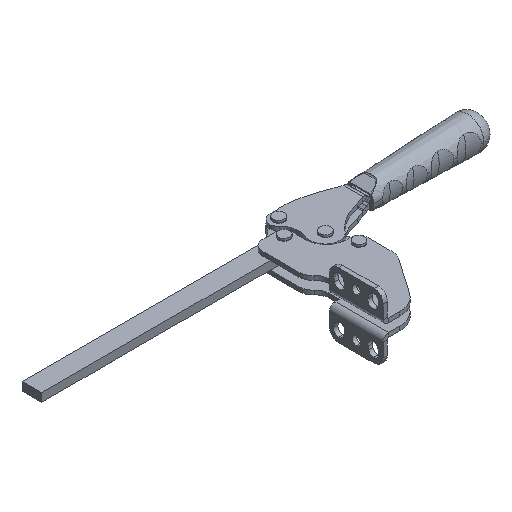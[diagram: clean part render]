
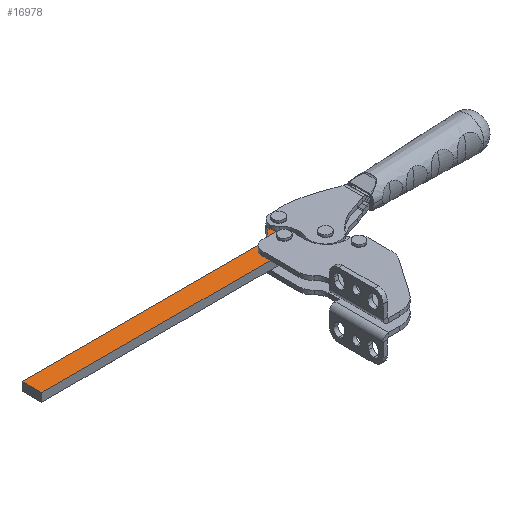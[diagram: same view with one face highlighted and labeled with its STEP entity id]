
A CAD part, isometric view. The second image highlights one B-rep face of the part: STEP entity #16978.
In plain terms, the highlighted planar face has unit normal (0, 0, 1).
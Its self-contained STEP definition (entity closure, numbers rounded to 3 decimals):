
#16 = ORIENTED_EDGE ( 'NONE', *, *, #10080, .F. ) ;
#217 = VERTEX_POINT ( 'NONE', #4514 ) ;
#438 = CARTESIAN_POINT ( 'NONE',  ( -180.517, 7.5, 3. ) ) ;
#446 = ORIENTED_EDGE ( 'NONE', *, *, #5189, .F. ) ;
#498 = VERTEX_POINT ( 'NONE', #9967 ) ;
#507 = CARTESIAN_POINT ( 'NONE',  ( 3.868, 16.831, 3. ) ) ;
#508 = LINE ( 'NONE', #3280, #8618 ) ;
#950 = DIRECTION ( 'NONE',  ( 1., 0., 0. ) ) ;
#1004 = DIRECTION ( 'NONE',  ( -1., 0., 0. ) ) ;
#1018 = AXIS2_PLACEMENT_3D ( 'NONE', #10662, #4124, #2891 ) ;
#1090 = ORIENTED_EDGE ( 'NONE', *, *, #8309, .T. ) ;
#1119 = EDGE_CURVE ( 'NONE', #217, #9193, #11549, .T. ) ;
#1202 = DIRECTION ( 'NONE',  ( 0., 0., 1. ) ) ;
#1243 = DIRECTION ( 'NONE',  ( 0., 0., 1. ) ) ;
#1294 = AXIS2_PLACEMENT_3D ( 'NONE', #4957, #15700, #950 ) ;
#1376 = EDGE_LOOP ( 'NONE', ( #1090, #9930, #11299, #4847, #9265, #4513, #16, #12073 ) ) ;
#1602 = FACE_BOUND ( 'NONE', #8383, .T. ) ;
#1735 = DIRECTION ( 'NONE',  ( -0.574, -0.819, 0. ) ) ;
#1780 = VERTEX_POINT ( 'NONE', #5843 ) ;
#2329 = DIRECTION ( 'NONE',  ( 1., 0., 0. ) ) ;
#2629 = DIRECTION ( 'NONE',  ( 0., 0., -1. ) ) ;
#2706 = VERTEX_POINT ( 'NONE', #8876 ) ;
#2891 = DIRECTION ( 'NONE',  ( 1., 0., 0. ) ) ;
#3270 = CIRCLE ( 'NONE', #9464, 2.5 ) ;
#3280 = CARTESIAN_POINT ( 'NONE',  ( -80.517, -6.5, 3. ) ) ;
#3344 = CARTESIAN_POINT ( 'NONE',  ( 11.689, 13.098, 3. ) ) ;
#3721 = CIRCLE ( 'NONE', #11040, 2.5 ) ;
#3816 = DIRECTION ( 'NONE',  ( 0., 0., 1. ) ) ;
#3896 = CARTESIAN_POINT ( 'NONE',  ( 0., 0., 3. ) ) ;
#4124 = DIRECTION ( 'NONE',  ( 0., 0., 1. ) ) ;
#4488 = EDGE_CURVE ( 'NONE', #2706, #8226, #9882, .T. ) ;
#4509 = LINE ( 'NONE', #15261, #6842 ) ;
#4513 = ORIENTED_EDGE ( 'NONE', *, *, #1119, .T. ) ;
#4514 = CARTESIAN_POINT ( 'NONE',  ( -10.478, 7.5, 3. ) ) ;
#4569 = EDGE_LOOP ( 'NONE', ( #5025, #446 ) ) ;
#4703 = DIRECTION ( 'NONE',  ( 1., 0., 0. ) ) ;
#4847 = ORIENTED_EDGE ( 'NONE', *, *, #5888, .T. ) ;
#4957 = CARTESIAN_POINT ( 'NONE',  ( 9.189, 13.098, 3. ) ) ;
#5025 = ORIENTED_EDGE ( 'NONE', *, *, #4488, .F. ) ;
#5189 = EDGE_CURVE ( 'NONE', #8226, #2706, #3721, .T. ) ;
#5775 = CIRCLE ( 'NONE', #7472, 6.5 ) ;
#5843 = CARTESIAN_POINT ( 'NONE',  ( -180.517, -6.5, 3. ) ) ;
#5888 = EDGE_CURVE ( 'NONE', #11709, #12281, #4509, .T. ) ;
#6282 = DIRECTION ( 'NONE',  ( 1., 0., 0. ) ) ;
#6842 = VECTOR ( 'NONE', #1735, 1000. ) ;
#7226 = EDGE_CURVE ( 'NONE', #9753, #11709, #12520, .T. ) ;
#7236 = EDGE_CURVE ( 'NONE', #16288, #14940, #9411, .T. ) ;
#7472 = AXIS2_PLACEMENT_3D ( 'NONE', #3896, #3816, #2329 ) ;
#8143 = EDGE_CURVE ( 'NONE', #12281, #217, #10275, .T. ) ;
#8226 = VERTEX_POINT ( 'NONE', #8663 ) ;
#8309 = EDGE_CURVE ( 'NONE', #8812, #498, #5775, .T. ) ;
#8383 = EDGE_LOOP ( 'NONE', ( #10492, #16154 ) ) ;
#8441 = DIRECTION ( 'NONE',  ( 0., 0., 1. ) ) ;
#8455 = CARTESIAN_POINT ( 'NONE',  ( 5.321, -3.733, 3. ) ) ;
#8618 = VECTOR ( 'NONE', #11304, 1000. ) ;
#8663 = CARTESIAN_POINT ( 'NONE',  ( 2.5, 0., 3. ) ) ;
#8812 = VERTEX_POINT ( 'NONE', #16727 ) ;
#8876 = CARTESIAN_POINT ( 'NONE',  ( -2.5, 0., 3. ) ) ;
#9193 = VERTEX_POINT ( 'NONE', #438 ) ;
#9232 = CARTESIAN_POINT ( 'NONE',  ( 9.189, 13.098, 3. ) ) ;
#9240 = DIRECTION ( 'NONE',  ( 1., 0., 0. ) ) ;
#9265 = ORIENTED_EDGE ( 'NONE', *, *, #8143, .T. ) ;
#9308 = LINE ( 'NONE', #9386, #9752 ) ;
#9386 = CARTESIAN_POINT ( 'NONE',  ( -180.517, -6.5, 3. ) ) ;
#9411 = CIRCLE ( 'NONE', #1294, 2.5 ) ;
#9459 = EDGE_CURVE ( 'NONE', #1780, #8812, #508, .T. ) ;
#9464 = AXIS2_PLACEMENT_3D ( 'NONE', #9232, #1243, #13280 ) ;
#9519 = CARTESIAN_POINT ( 'NONE',  ( 6.689, 13.098, 3. ) ) ;
#9528 = DIRECTION ( 'NONE',  ( 0.574, 0.819, 0. ) ) ;
#9752 = VECTOR ( 'NONE', #17237, 1000. ) ;
#9753 = VERTEX_POINT ( 'NONE', #11345 ) ;
#9769 = CARTESIAN_POINT ( 'NONE',  ( 0., 0., 3. ) ) ;
#9882 = CIRCLE ( 'NONE', #13027, 2.5 ) ;
#9930 = ORIENTED_EDGE ( 'NONE', *, *, #11963, .T. ) ;
#9967 = CARTESIAN_POINT ( 'NONE',  ( 5.321, -3.733, 3. ) ) ;
#10080 = EDGE_CURVE ( 'NONE', #1780, #9193, #9308, .T. ) ;
#10275 = CIRCLE ( 'NONE', #12535, 15. ) ;
#10492 = ORIENTED_EDGE ( 'NONE', *, *, #7236, .F. ) ;
#10662 = CARTESIAN_POINT ( 'NONE',  ( 0., 0., 3. ) ) ;
#10853 = LINE ( 'NONE', #8455, #14681 ) ;
#10899 = CARTESIAN_POINT ( 'NONE',  ( -10.478, 22.5, 3. ) ) ;
#11040 = AXIS2_PLACEMENT_3D ( 'NONE', #9769, #8441, #13812 ) ;
#11117 = EDGE_CURVE ( 'NONE', #14940, #16288, #3270, .T. ) ;
#11299 = ORIENTED_EDGE ( 'NONE', *, *, #7226, .T. ) ;
#11304 = DIRECTION ( 'NONE',  ( 1., 0., 0. ) ) ;
#11345 = CARTESIAN_POINT ( 'NONE',  ( 14.51, 9.365, 3. ) ) ;
#11549 = LINE ( 'NONE', #13036, #12309 ) ;
#11595 = CARTESIAN_POINT ( 'NONE',  ( 0., 0., 3. ) ) ;
#11709 = VERTEX_POINT ( 'NONE', #507 ) ;
#11963 = EDGE_CURVE ( 'NONE', #498, #9753, #10853, .T. ) ;
#12073 = ORIENTED_EDGE ( 'NONE', *, *, #9459, .T. ) ;
#12281 = VERTEX_POINT ( 'NONE', #13145 ) ;
#12309 = VECTOR ( 'NONE', #1004, 1000. ) ;
#12520 = CIRCLE ( 'NONE', #17014, 6.5 ) ;
#12535 = AXIS2_PLACEMENT_3D ( 'NONE', #10899, #2629, #9240 ) ;
#12924 = DIRECTION ( 'NONE',  ( 0., 0., 1. ) ) ;
#13027 = AXIS2_PLACEMENT_3D ( 'NONE', #11595, #12924, #4703 ) ;
#13036 = CARTESIAN_POINT ( 'NONE',  ( -10.478, 7.5, 3. ) ) ;
#13145 = CARTESIAN_POINT ( 'NONE',  ( 1.801, 13.885, 3. ) ) ;
#13248 = CARTESIAN_POINT ( 'NONE',  ( 9.189, 13.098, 3. ) ) ;
#13280 = DIRECTION ( 'NONE',  ( 1., 0., 0. ) ) ;
#13394 = PLANE ( 'NONE',  #1018 ) ;
#13473 = FACE_OUTER_BOUND ( 'NONE', #1376, .T. ) ;
#13812 = DIRECTION ( 'NONE',  ( 1., 0., 0. ) ) ;
#14681 = VECTOR ( 'NONE', #9528, 1000. ) ;
#14940 = VERTEX_POINT ( 'NONE', #3344 ) ;
#15041 = FACE_BOUND ( 'NONE', #4569, .T. ) ;
#15261 = CARTESIAN_POINT ( 'NONE',  ( 3.868, 16.831, 3. ) ) ;
#15700 = DIRECTION ( 'NONE',  ( 0., 0., 1. ) ) ;
#16154 = ORIENTED_EDGE ( 'NONE', *, *, #11117, .F. ) ;
#16288 = VERTEX_POINT ( 'NONE', #9519 ) ;
#16727 = CARTESIAN_POINT ( 'NONE',  ( 0., -6.5, 3. ) ) ;
#16978 = ADVANCED_FACE ( 'NONE', ( #15041, #13473, #1602 ), #13394, .T. ) ;
#17014 = AXIS2_PLACEMENT_3D ( 'NONE', #13248, #1202, #6282 ) ;
#17237 = DIRECTION ( 'NONE',  ( 0., 1., 0. ) ) ;
